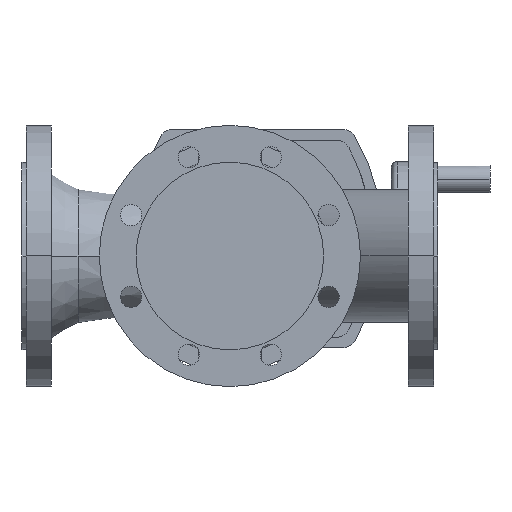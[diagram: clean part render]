
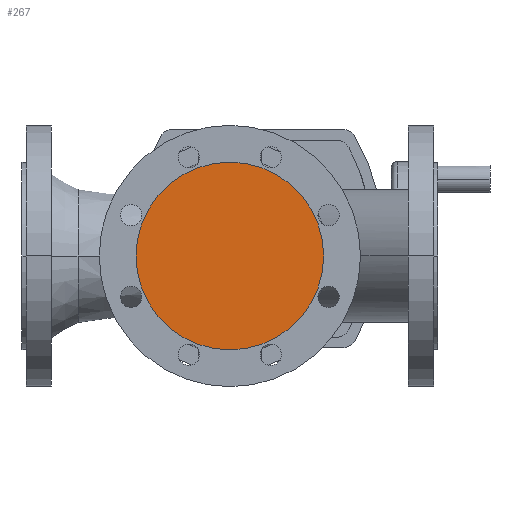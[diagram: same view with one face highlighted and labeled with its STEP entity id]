
A CAD part, front view. The second image highlights one B-rep face of the part: STEP entity #267.
In plain terms, the highlighted planar face has unit normal (0, -1, 0).
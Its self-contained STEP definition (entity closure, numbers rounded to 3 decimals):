
#267 = ADVANCED_FACE( '', ( #731 ), #732, .T. );
#731 = FACE_OUTER_BOUND( '', #1335, .T. );
#732 = PLANE( '', #1336 );
#1335 = EDGE_LOOP( '', ( #2756, #2757 ) );
#1336 = AXIS2_PLACEMENT_3D( '', #2758, #2759, #2760 );
#2756 = ORIENTED_EDGE( '', *, *, #3763, .F. );
#2757 = ORIENTED_EDGE( '', *, *, #4121, .F. );
#2758 = CARTESIAN_POINT( '', ( 214.5, -150., 0. ) );
#2759 = DIRECTION( '', ( 0., -1., 0. ) );
#2760 = DIRECTION( '', ( -1., 0., 0. ) );
#3763 = EDGE_CURVE( '', #4459, #4462, #4463, .T. );
#4121 = EDGE_CURVE( '', #4462, #4459, #5051, .T. );
#4459 = VERTEX_POINT( '', #5648 );
#4462 = VERTEX_POINT( '', #5652 );
#4463 = CIRCLE( '', #5653, 79. );
#5051 = CIRCLE( '', #6743, 79. );
#5648 = CARTESIAN_POINT( '', ( 254., -150., 0. ) );
#5652 = CARTESIAN_POINT( '', ( 96., -150., 0. ) );
#5653 = AXIS2_PLACEMENT_3D( '', #7437, #7438, #7439 );
#6743 = AXIS2_PLACEMENT_3D( '', #8170, #8171, #8172 );
#7437 = CARTESIAN_POINT( '', ( 175., -150., 0. ) );
#7438 = DIRECTION( '', ( 0., 1., 0. ) );
#7439 = DIRECTION( '', ( 1., 0., 0. ) );
#8170 = CARTESIAN_POINT( '', ( 175., -150., 0. ) );
#8171 = DIRECTION( '', ( 0., 1., 0. ) );
#8172 = DIRECTION( '', ( 1., 0., 0. ) );
